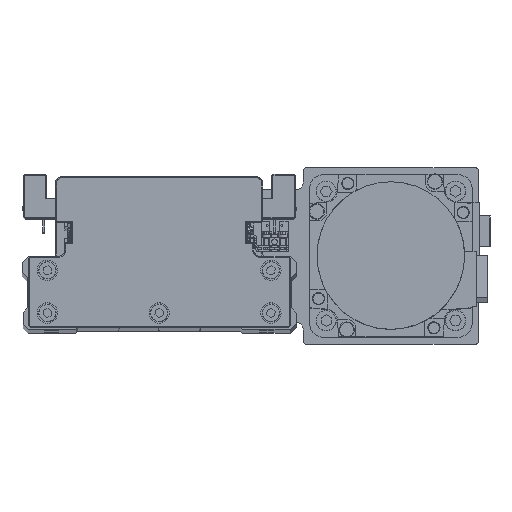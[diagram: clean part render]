
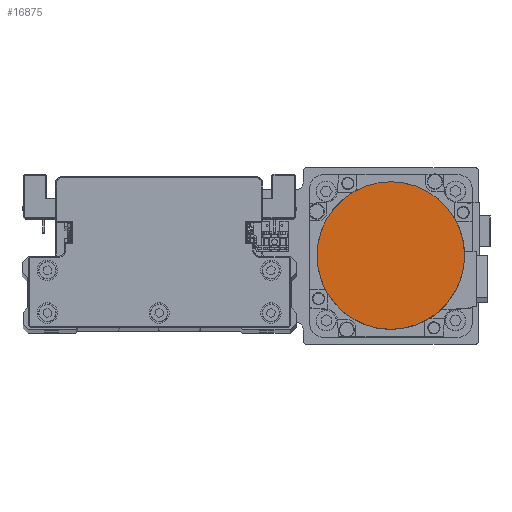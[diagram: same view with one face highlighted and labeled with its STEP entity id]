
A CAD part, top view. The second image highlights one B-rep face of the part: STEP entity #16875.
In plain terms, the highlighted planar face has unit normal (0, 0, 1) as drawn and (0, 0, -1) by its records, which use the part's own axes.
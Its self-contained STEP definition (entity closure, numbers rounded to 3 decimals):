
#428 = FACE_OUTER_BOUND ( 'NONE', #30638, .T. ) ;
#885 = EDGE_CURVE ( 'NONE', #19220, #29914, #28322, .T. ) ;
#3162 = EDGE_CURVE ( 'NONE', #29914, #19220, #39367, .T. ) ;
#3612 = DIRECTION ( 'NONE',  ( 0., 0., 1. ) ) ;
#8038 = ORIENTED_EDGE ( 'NONE', *, *, #3162, .F. ) ;
#9830 = DIRECTION ( 'NONE',  ( 1., 0., 0. ) ) ;
#10235 = CARTESIAN_POINT ( 'NONE',  ( 0., 0., -122.2 ) ) ;
#10726 = AXIS2_PLACEMENT_3D ( 'NONE', #10235, #22669, #35069 ) ;
#12922 = PLANE ( 'NONE',  #21444 ) ;
#16069 = DIRECTION ( 'NONE',  ( 0., 1., 0. ) ) ;
#16875 = ADVANCED_FACE ( 'NONE', ( #428 ), #12922, .F. ) ;
#19220 = VERTEX_POINT ( 'NONE', #27674 ) ;
#20347 = CARTESIAN_POINT ( 'NONE',  ( 0., 36.3, -122.2 ) ) ;
#21444 = AXIS2_PLACEMENT_3D ( 'NONE', #25352, #37726, #9830 ) ;
#21798 = AXIS2_PLACEMENT_3D ( 'NONE', #31526, #3612, #16069 ) ;
#22669 = DIRECTION ( 'NONE',  ( 0., 0., 1. ) ) ;
#25352 = CARTESIAN_POINT ( 'NONE',  ( 0., 0., -122.2 ) ) ;
#26292 = ORIENTED_EDGE ( 'NONE', *, *, #885, .F. ) ;
#27674 = CARTESIAN_POINT ( 'NONE',  ( 0., -36.3, -122.2 ) ) ;
#28322 = CIRCLE ( 'NONE', #10726, 36.3 ) ;
#29914 = VERTEX_POINT ( 'NONE', #20347 ) ;
#30638 = EDGE_LOOP ( 'NONE', ( #8038, #26292 ) ) ;
#31526 = CARTESIAN_POINT ( 'NONE',  ( 0., 0., -122.2 ) ) ;
#35069 = DIRECTION ( 'NONE',  ( 0., -1., 0. ) ) ;
#37726 = DIRECTION ( 'NONE',  ( 0., 0., 1. ) ) ;
#39367 = CIRCLE ( 'NONE', #21798, 36.3 ) ;
